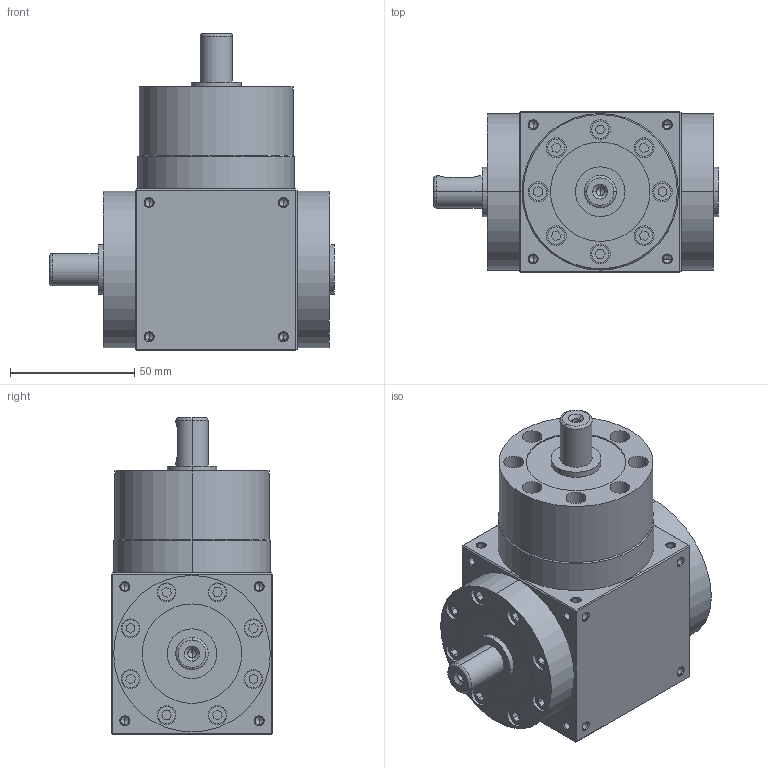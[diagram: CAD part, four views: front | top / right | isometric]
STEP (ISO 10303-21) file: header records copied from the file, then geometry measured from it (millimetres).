
FILE_DESCRIPTION (( 'STEP AP203' ), '1' );
FILE_NAME ('AT060-FL1-L1-1-S2-P2.STEP', '2025-11-26T03:24:20', ( 'Windows User' ), ( 'P R C' ), 'SwSTEP 2.0', 'SolidWorks 2016', '' );
FILE_SCHEMA (( 'CONFIG_CONTROL_DESIGN' ));
Length unit declared in the file: millimetre
Products named in the file (3): AT060-FL1-转角箱体-批量-左-单轴输出; AT060-FL1-输入端-批量; AT060-FL1-L1-1-S2-P2
Assembly tree (2 placements, depth 2):
  AT060-FL1-L1-1-S2-P2
    AT060-FL1-转角箱体-批量-左-单轴输出
    AT060-FL1-输入端-批量
Bounding box: 114.5 x 65 x 127.5 mm (x, y, z)
Volume: 368026.2 mm3; surface area: 78725 mm2
Topology: 2 solids, 14 shells, 1346 faces, 3382 edges, 2126 vertices
Faces by surface type: plane 709, cylinder 291, cone 212, bspline 134
Entity records: 45193 total; most frequent: CARTESIAN_POINT 14038, ORIENTED_EDGE 6588, DIRECTION 5886, EDGE_CURVE 3294, LINE 2222, VECTOR 2222, VERTEX_POINT 2126, AXIS2_PLACEMENT_3D 1832
